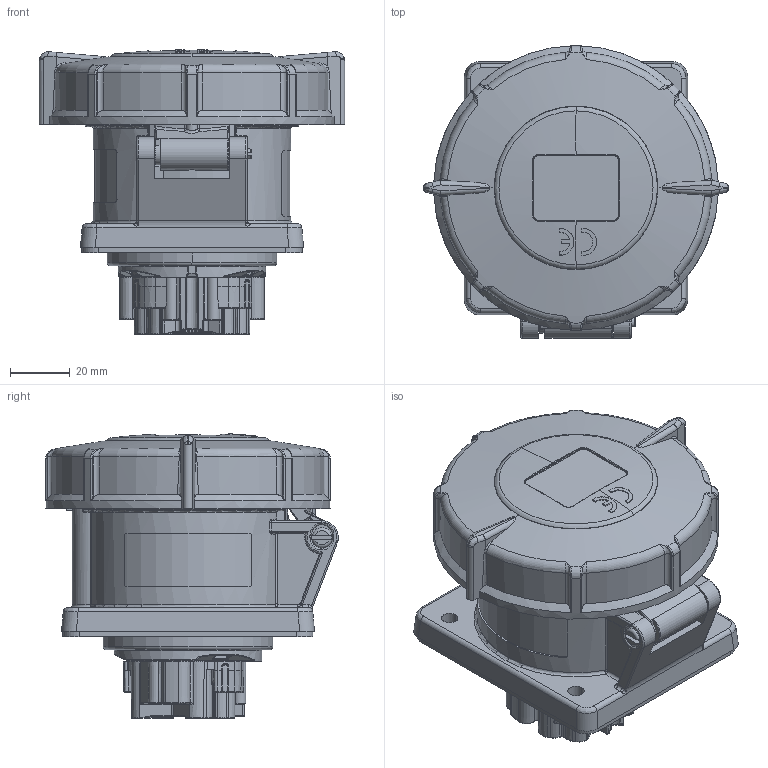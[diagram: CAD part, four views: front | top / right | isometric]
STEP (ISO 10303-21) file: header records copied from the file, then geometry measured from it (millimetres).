
FILE_DESCRIPTION((''),'2;1');
FILE_NAME('1810','2020-11-18T10:35:09',('funke002'),('MENNEKES'),'CREO PARAMETRIC BY PTC INC, 2019080','CREO PARAMETRIC BY PTC INC, 2019080','');
FILE_SCHEMA(('AUTOMOTIVE_DESIGN { 1 0 10303 214 1 1 1 1 }'));
Length unit declared in the file: millimetre
Products named in the file (1): 1810
Bounding box: 102.6 x 98.29 x 95.58 mm (x, y, z)
Volume: 377958.7 mm3; surface area: 47025.5 mm2
Topology: 1 solids, 1 shells, 2092 faces, 5364 edges, 3318 vertices
Faces by surface type: plane 806, cylinder 510, bspline 404, torus 229, cone 103, sphere 28, extrusion 12
Entity records: 100150 total; most frequent: CARTESIAN_POINT 37638, ORIENTED_EDGE 10724, DIRECTION 8824, EDGE_CURVE 5362, VERTEX_POINT 3318, AXIS2_PLACEMENT_3D 3114, VECTOR 2596, LINE 2584
